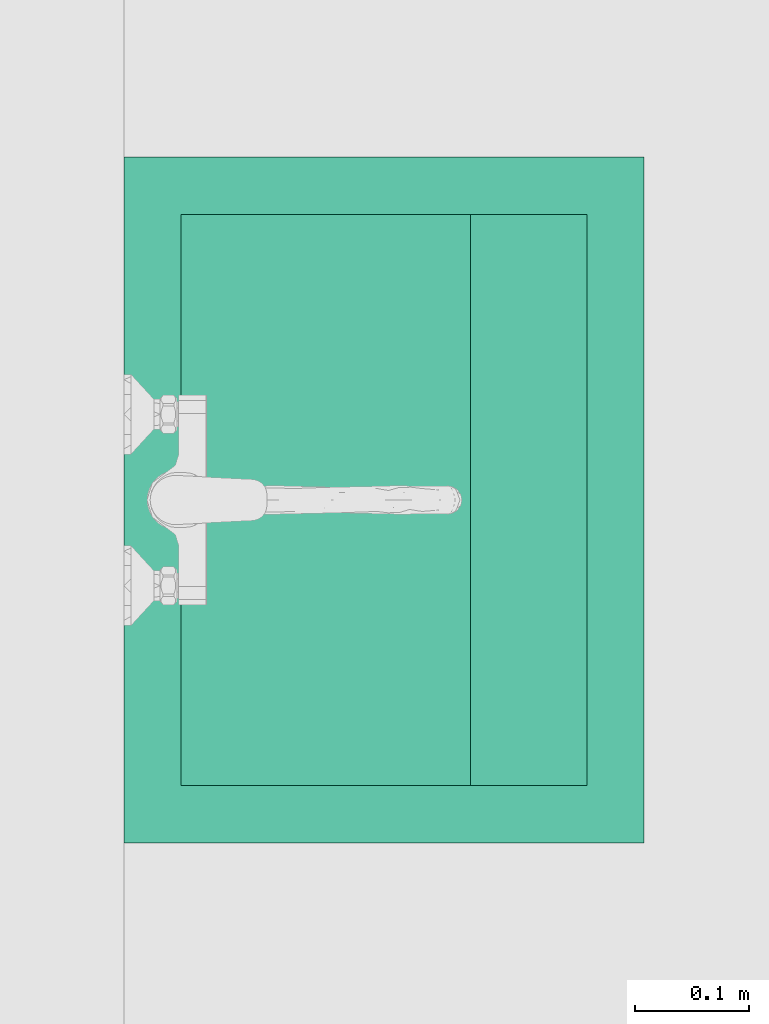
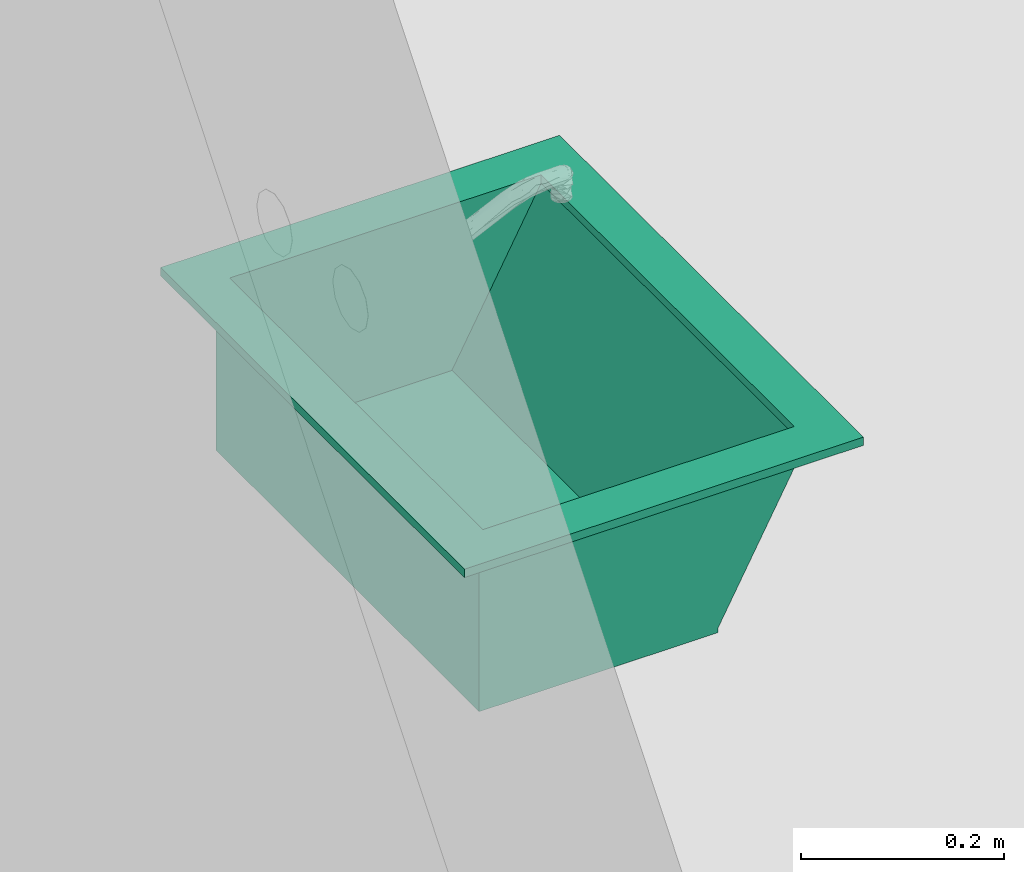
# One storey, part 30 of 67: 1 flow terminal.
"""IFC4 building model written with IfcOpenShell, lengths in millimetres."""

from ifc_helpers import new_model, entity, si_unit, converted_unit, direction, frame, origin, place, context, subcontext, project, spatial, indexed_curve, outline, extrude, source, transform, mapped, material, type_object, type_shapes, element, save


model = new_model("IFC4")

# Units and contexts
model_context = context("Model", 3, precision=0.01, world=origin(), true_north=direction((0.0, 1.0)))
body_context = subcontext(model_context, "Body", "Model", "MODEL_VIEW")
ifc_project = project(units=[si_unit("LENGTHUNIT", "METRE", prefix="MILLI"), si_unit("AREAUNIT", "SQUARE_METRE"), si_unit("VOLUMEUNIT", "CUBIC_METRE"), converted_unit("PLANEANGLEUNIT", "DEGREE", entity("IfcPlaneAngleMeasure", 0.017453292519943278), si_unit("PLANEANGLEUNIT", "RADIAN"), dimensions=[0, 0, 0, 0, 0, 0, 0])], contexts=[model_context])

# Site, building, storey, space
site_placement = place(None, origin())
site = spatial("IfcSite", under=ifc_project, at=site_placement, Name="Tomtens navn", CompositionType="ELEMENT")
building_placement = place(site_placement, origin())
building = spatial("IfcBuilding", under=site, at=building_placement, Name="Byggets navn", CompositionType="ELEMENT")
storey_placement = place(building_placement, origin())
storey = spatial("IfcBuildingStorey", under=building, at=storey_placement, Name="Level 01", CompositionType="ELEMENT", Elevation=2.1993652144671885e-25)
space_placement = place(storey_placement, frame((68822.85352810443, 8061.466456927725, 0.0)))
space = spatial("IfcSpace", under=storey, at=space_placement, Name="116", CompositionType="ELEMENT", PredefinedType="NOTDEFINED")

# Flow terminal
ifc_material = material(Name="Metal - Aluminium", Category="Unassigned")
distribution_element_type = type_object("IfcDistributionElementType", Name="Sink_03:Middels", material=ifc_material)
shared_shape = source(origin(), body_context, "Body", "SweptSolid", [
    extrude(outline(indexed_curve([(-300.0, -227.50000000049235), (300.0, -227.50000000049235), (300.0, 227.50000000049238), (-300.0, 227.50000000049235), (-300.0, -227.50000000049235)], self_intersect=False), holes=[indexed_curve([(-249.99999999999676, -177.50000000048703), (-249.9999999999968, 177.50000000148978), (250.0000000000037, 177.50000000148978), (250.00000000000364, -177.50000000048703), (-249.99999999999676, -177.50000000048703)], self_intersect=False)]), frame((94.41156576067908, -123.92530613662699, 890.0)), (0.0, 0.0, 1.0), 10.000000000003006),
    extrude(outline(indexed_curve([(-5.000000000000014, -250.00000000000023), (4.9999999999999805, -250.00000000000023), (5.000000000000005, 250.00000000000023), (-4.9999999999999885, 250.00000000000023), (-5.000000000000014, -250.00000000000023)], self_intersect=False)), frame((94.411565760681, 58.57469386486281, 700.0), z_axis=(0.0, 0.0, 1.0), x_axis=(0.0, 1.0, 0.0)), (0.0, 0.0, 1.0), 190.0000000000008),
    extrude(outline(indexed_curve([(-181.85587398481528, -138.50191830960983), (33.634522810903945, -138.50191830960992), (157.87310894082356, 93.68166888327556), (-9.651757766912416, 183.32216773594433), (-181.85587398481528, -138.50191830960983)], self_intersect=False)), frame((344.41156576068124, -93.50863946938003, 795.0), z_axis=(1.0, 0.0, 0.0), x_axis=(0.0, 0.4717920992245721, -0.8817098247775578)), (0.0, 0.0, 1.0), 9.999999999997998),
    extrude(outline(indexed_curve([(-181.85587398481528, -138.50191830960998), (33.634522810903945, -138.50191830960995), (157.8731089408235, 93.68166888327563), (-9.651757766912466, 183.3221677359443), (-181.85587398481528, -138.50191830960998)], self_intersect=False)), frame((-165.58843423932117, -93.50863946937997, 795.0), z_axis=(1.0, 0.0, 0.0), x_axis=(0.0, 0.4717920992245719, -0.8817098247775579)), (0.0, 0.0, 1.0), 10.00000000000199),
    extrude(outline(indexed_curve([(-107.7451983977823, -4.999999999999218), (107.74519839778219, -5.000000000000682), (107.74519839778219, 4.999999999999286), (-107.7451983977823, 5.000000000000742), (-107.7451983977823, -4.999999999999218)], self_intersect=False)), frame((-165.5884342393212, -255.0005219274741, 792.6410395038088), z_axis=(1.0, 0.0, 0.0), x_axis=(0.0, 0.47179209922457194, -0.8817098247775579)), (0.0, 0.0, 1.0), 520.0000000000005),
    extrude(outline(indexed_curve([(-260.0000000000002, -136.0752157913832), (260.0000000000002, -136.0752157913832), (260.0000000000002, 136.0752157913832), (-260.0000000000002, 136.0752157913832), (-260.0000000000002, -136.0752157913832)], self_intersect=False)), frame((94.41156576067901, -72.50052192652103, 690.0), z_axis=(0.0, 0.0, 1.0), x_axis=(-1.0, 0.0, 0.0)), (0.0, 0.0, 1.0), 10.000000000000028),
])
type_shapes(distribution_element_type, [shared_shape])
flow_terminal_placement = place(space_placement, frame((103.57469386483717, 4355.838434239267, -90.0), z_axis=(0.0, 0.0, 1.0), x_axis=(0.0, 1.0, 0.0)))
element("IfcFlowTerminal", 1, at=flow_terminal_placement, inside=space, type_object=distribution_element_type, material=ifc_material, Name="Sink_03:Middels", context=body_context, shape_type="MappedRepresentation", body=[
    mapped(shared_shape, transform((0.0, 0.0, 0.0), scale=1.0)),
])

save(model, "model.ifc")
